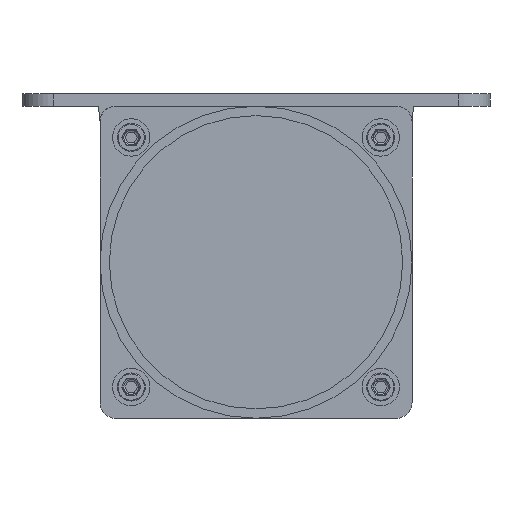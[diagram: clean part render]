
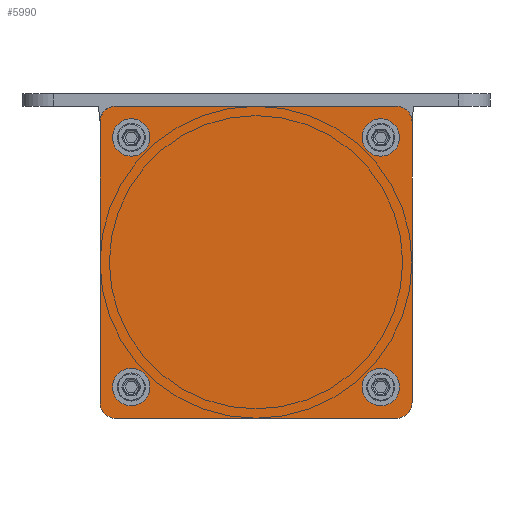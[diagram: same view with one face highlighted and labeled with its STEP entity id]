
A CAD part, front view. The second image highlights one B-rep face of the part: STEP entity #5990.
In plain terms, the highlighted planar face has unit normal (0, -1, 0).
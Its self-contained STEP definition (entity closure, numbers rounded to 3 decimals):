
#2125=CARTESIAN_POINT('',(-45.,-495.5,-45.));
#2126=DIRECTION('',(0.,-1.,0.));
#2127=DIRECTION('',(-1.,0.,0.));
#2128=AXIS2_PLACEMENT_3D('',#2125,#2126,#2127);
#2130=DIRECTION('',(0.,0.,-1.));
#2131=VECTOR('',#2130,90.);
#2132=CARTESIAN_POINT('',(-50.,-495.5,45.));
#2133=LINE('',#2132,#2131);
#2134=CARTESIAN_POINT('',(-45.,-495.5,45.));
#2135=DIRECTION('',(0.,-1.,0.));
#2136=DIRECTION('',(0.,0.,1.));
#2137=AXIS2_PLACEMENT_3D('',#2134,#2135,#2136);
#2139=DIRECTION('',(-1.,0.,0.));
#2140=VECTOR('',#2139,90.);
#2141=CARTESIAN_POINT('',(45.,-495.5,50.));
#2142=LINE('',#2141,#2140);
#2143=CARTESIAN_POINT('',(45.,-495.5,45.));
#2144=DIRECTION('',(0.,-1.,0.));
#2145=DIRECTION('',(1.,0.,0.));
#2146=AXIS2_PLACEMENT_3D('',#2143,#2144,#2145);
#2148=DIRECTION('',(0.,0.,1.));
#2149=VECTOR('',#2148,90.);
#2150=CARTESIAN_POINT('',(50.,-495.5,-45.));
#2151=LINE('',#2150,#2149);
#2152=CARTESIAN_POINT('',(45.,-495.5,-45.));
#2153=DIRECTION('',(0.,-1.,0.));
#2154=DIRECTION('',(0.,0.,-1.));
#2155=AXIS2_PLACEMENT_3D('',#2152,#2153,#2154);
#2157=DIRECTION('',(1.,0.,0.));
#2158=VECTOR('',#2157,90.);
#2159=CARTESIAN_POINT('',(-45.,-495.5,-50.));
#2160=LINE('',#2159,#2158);
#2161=CARTESIAN_POINT('',(-40.,-495.5,-40.));
#2162=DIRECTION('',(0.,-1.,0.));
#2163=DIRECTION('',(0.,0.,1.));
#2164=AXIS2_PLACEMENT_3D('',#2161,#2162,#2163);
#2166=CARTESIAN_POINT('',(-40.,-495.5,-40.));
#2167=DIRECTION('',(0.,-1.,0.));
#2168=DIRECTION('',(0.,0.,-1.));
#2169=AXIS2_PLACEMENT_3D('',#2166,#2167,#2168);
#2171=CARTESIAN_POINT('',(-40.,-495.5,40.));
#2172=DIRECTION('',(0.,-1.,0.));
#2173=DIRECTION('',(0.,0.,1.));
#2174=AXIS2_PLACEMENT_3D('',#2171,#2172,#2173);
#2176=CARTESIAN_POINT('',(-40.,-495.5,40.));
#2177=DIRECTION('',(0.,-1.,0.));
#2178=DIRECTION('',(0.,0.,-1.));
#2179=AXIS2_PLACEMENT_3D('',#2176,#2177,#2178);
#2181=CARTESIAN_POINT('',(40.,-495.5,-40.));
#2182=DIRECTION('',(0.,-1.,0.));
#2183=DIRECTION('',(0.,0.,1.));
#2184=AXIS2_PLACEMENT_3D('',#2181,#2182,#2183);
#2186=CARTESIAN_POINT('',(40.,-495.5,-40.));
#2187=DIRECTION('',(0.,-1.,0.));
#2188=DIRECTION('',(0.,0.,-1.));
#2189=AXIS2_PLACEMENT_3D('',#2186,#2187,#2188);
#2191=CARTESIAN_POINT('',(40.,-495.5,40.));
#2192=DIRECTION('',(0.,-1.,0.));
#2193=DIRECTION('',(0.,0.,1.));
#2194=AXIS2_PLACEMENT_3D('',#2191,#2192,#2193);
#2196=CARTESIAN_POINT('',(40.,-495.5,40.));
#2197=DIRECTION('',(0.,-1.,0.));
#2198=DIRECTION('',(0.,0.,-1.));
#2199=AXIS2_PLACEMENT_3D('',#2196,#2197,#2198);
#2509=CARTESIAN_POINT('',(-50.,-495.5,-45.));
#2510=CARTESIAN_POINT('',(-45.,-495.5,-50.));
#2511=VERTEX_POINT('',#2509);
#2512=VERTEX_POINT('',#2510);
#2513=CARTESIAN_POINT('',(45.,-495.5,-50.));
#2514=VERTEX_POINT('',#2513);
#2515=CARTESIAN_POINT('',(50.,-495.5,-45.));
#2516=VERTEX_POINT('',#2515);
#2517=CARTESIAN_POINT('',(50.,-495.5,45.));
#2518=VERTEX_POINT('',#2517);
#2519=CARTESIAN_POINT('',(45.,-495.5,50.));
#2520=VERTEX_POINT('',#2519);
#2521=CARTESIAN_POINT('',(-45.,-495.5,50.));
#2522=VERTEX_POINT('',#2521);
#2523=CARTESIAN_POINT('',(-50.,-495.5,45.));
#2524=VERTEX_POINT('',#2523);
#2537=CARTESIAN_POINT('',(-40.,-495.5,-36.75));
#2538=CARTESIAN_POINT('',(-40.,-495.5,-43.25));
#2539=VERTEX_POINT('',#2537);
#2540=VERTEX_POINT('',#2538);
#2541=CARTESIAN_POINT('',(-40.,-495.5,43.25));
#2542=CARTESIAN_POINT('',(-40.,-495.5,36.75));
#2543=VERTEX_POINT('',#2541);
#2544=VERTEX_POINT('',#2542);
#2545=CARTESIAN_POINT('',(40.,-495.5,-36.75));
#2546=CARTESIAN_POINT('',(40.,-495.5,-43.25));
#2547=VERTEX_POINT('',#2545);
#2548=VERTEX_POINT('',#2546);
#2549=CARTESIAN_POINT('',(40.,-495.5,43.25));
#2550=CARTESIAN_POINT('',(40.,-495.5,36.75));
#2551=VERTEX_POINT('',#2549);
#2552=VERTEX_POINT('',#2550);
#5945=CARTESIAN_POINT('',(0.,-495.5,0.));
#5946=DIRECTION('',(0.,-1.,0.));
#5947=DIRECTION('',(0.,0.,1.));
#5948=AXIS2_PLACEMENT_3D('',#5945,#5946,#5947);
#5949=PLANE('',#5948);
#5951=ORIENTED_EDGE('',*,*,#5950,.F.);
#5953=ORIENTED_EDGE('',*,*,#5952,.F.);
#5955=ORIENTED_EDGE('',*,*,#5954,.F.);
#5957=ORIENTED_EDGE('',*,*,#5956,.F.);
#5959=ORIENTED_EDGE('',*,*,#5958,.F.);
#5961=ORIENTED_EDGE('',*,*,#5960,.F.);
#5963=ORIENTED_EDGE('',*,*,#5962,.F.);
#5965=ORIENTED_EDGE('',*,*,#5964,.F.);
#5966=EDGE_LOOP('',(#5951,#5953,#5955,#5957,#5959,#5961,#5963,#5965));
#5967=FACE_OUTER_BOUND('',#5966,.F.);
#5968=ORIENTED_EDGE('',*,*,#5925,.T.);
#5969=ORIENTED_EDGE('',*,*,#5939,.T.);
#5970=EDGE_LOOP('',(#5968,#5969));
#5971=FACE_BOUND('',#5970,.F.);
#5973=ORIENTED_EDGE('',*,*,#5972,.T.);
#5975=ORIENTED_EDGE('',*,*,#5974,.T.);
#5976=EDGE_LOOP('',(#5973,#5975));
#5977=FACE_BOUND('',#5976,.F.);
#5979=ORIENTED_EDGE('',*,*,#5978,.T.);
#5981=ORIENTED_EDGE('',*,*,#5980,.T.);
#5982=EDGE_LOOP('',(#5979,#5981));
#5983=FACE_BOUND('',#5982,.F.);
#5985=ORIENTED_EDGE('',*,*,#5984,.T.);
#5987=ORIENTED_EDGE('',*,*,#5986,.T.);
#5988=EDGE_LOOP('',(#5985,#5987));
#5989=FACE_BOUND('',#5988,.F.);
#5990=ADVANCED_FACE('',(#5967,#5971,#5977,#5983,#5989),#5949,.T.);
#2129=CIRCLE('',#2128,5.);
#2138=CIRCLE('',#2137,5.);
#2147=CIRCLE('',#2146,5.);
#2156=CIRCLE('',#2155,5.);
#2165=CIRCLE('',#2164,3.25);
#2170=CIRCLE('',#2169,3.25);
#2175=CIRCLE('',#2174,3.25);
#2180=CIRCLE('',#2179,3.25);
#2185=CIRCLE('',#2184,3.25);
#2190=CIRCLE('',#2189,3.25);
#2195=CIRCLE('',#2194,3.25);
#2200=CIRCLE('',#2199,3.25);
#5925=EDGE_CURVE('',#2539,#2540,#2165,.T.);
#5939=EDGE_CURVE('',#2540,#2539,#2170,.T.);
#5950=EDGE_CURVE('',#2511,#2512,#2129,.T.);
#5952=EDGE_CURVE('',#2524,#2511,#2133,.T.);
#5954=EDGE_CURVE('',#2522,#2524,#2138,.T.);
#5956=EDGE_CURVE('',#2520,#2522,#2142,.T.);
#5958=EDGE_CURVE('',#2518,#2520,#2147,.T.);
#5960=EDGE_CURVE('',#2516,#2518,#2151,.T.);
#5962=EDGE_CURVE('',#2514,#2516,#2156,.T.);
#5964=EDGE_CURVE('',#2512,#2514,#2160,.T.);
#5972=EDGE_CURVE('',#2543,#2544,#2175,.T.);
#5974=EDGE_CURVE('',#2544,#2543,#2180,.T.);
#5978=EDGE_CURVE('',#2547,#2548,#2185,.T.);
#5980=EDGE_CURVE('',#2548,#2547,#2190,.T.);
#5984=EDGE_CURVE('',#2551,#2552,#2195,.T.);
#5986=EDGE_CURVE('',#2552,#2551,#2200,.T.);
